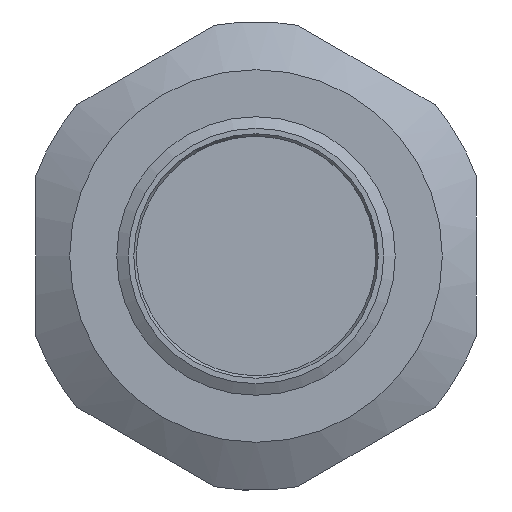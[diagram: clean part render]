
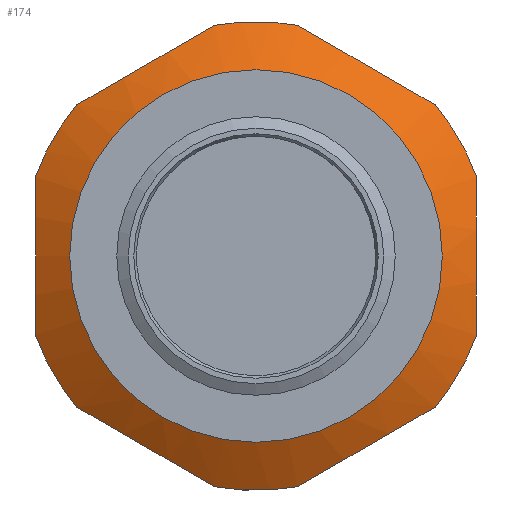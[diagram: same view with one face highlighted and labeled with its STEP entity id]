
A CAD part, front view. The second image highlights one B-rep face of the part: STEP entity #174.
In plain terms, the highlighted conical face has half-angle 60 degrees and reference radius 7.663 mm.
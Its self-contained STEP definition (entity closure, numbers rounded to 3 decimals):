
#46=(
BOUNDED_CURVE()
B_SPLINE_CURVE(2,(#1394,#1395,#1396),.UNSPECIFIED.,.F.,.F.)
B_SPLINE_CURVE_WITH_KNOTS((3,3),(0.,1.),.UNSPECIFIED.)
CURVE()
GEOMETRIC_REPRESENTATION_ITEM()
RATIONAL_B_SPLINE_CURVE((1.,1.063,1.))
REPRESENTATION_ITEM('')
);
#48=(
BOUNDED_CURVE()
B_SPLINE_CURVE(2,(#1410,#1411,#1412),.UNSPECIFIED.,.F.,.F.)
B_SPLINE_CURVE_WITH_KNOTS((3,3),(0.,1.),.UNSPECIFIED.)
CURVE()
GEOMETRIC_REPRESENTATION_ITEM()
RATIONAL_B_SPLINE_CURVE((1.,1.063,1.))
REPRESENTATION_ITEM('')
);
#54=(
BOUNDED_CURVE()
B_SPLINE_CURVE(2,(#1453,#1454,#1455),.UNSPECIFIED.,.F.,.F.)
B_SPLINE_CURVE_WITH_KNOTS((3,3),(0.,1.),.UNSPECIFIED.)
CURVE()
GEOMETRIC_REPRESENTATION_ITEM()
RATIONAL_B_SPLINE_CURVE((1.,1.032,1.032))
REPRESENTATION_ITEM('')
);
#55=(
BOUNDED_CURVE()
B_SPLINE_CURVE(2,(#1460,#1461,#1462),.UNSPECIFIED.,.F.,.F.)
B_SPLINE_CURVE_WITH_KNOTS((3,3),(0.,1.),.UNSPECIFIED.)
CURVE()
GEOMETRIC_REPRESENTATION_ITEM()
RATIONAL_B_SPLINE_CURVE((1.,1.063,1.))
REPRESENTATION_ITEM('')
);
#56=(
BOUNDED_CURVE()
B_SPLINE_CURVE(2,(#1465,#1466,#1467),.UNSPECIFIED.,.F.,.F.)
B_SPLINE_CURVE_WITH_KNOTS((3,3),(0.,1.),.UNSPECIFIED.)
CURVE()
GEOMETRIC_REPRESENTATION_ITEM()
RATIONAL_B_SPLINE_CURVE((1.,1.063,1.))
REPRESENTATION_ITEM('')
);
#57=(
BOUNDED_CURVE()
B_SPLINE_CURVE(2,(#1471,#1472,#1473),.UNSPECIFIED.,.F.,.F.)
B_SPLINE_CURVE_WITH_KNOTS((3,3),(0.,1.),.UNSPECIFIED.)
CURVE()
GEOMETRIC_REPRESENTATION_ITEM()
RATIONAL_B_SPLINE_CURVE((1.,1.063,1.))
REPRESENTATION_ITEM('')
);
#58=(
BOUNDED_CURVE()
B_SPLINE_CURVE(2,(#1477,#1478,#1479),.UNSPECIFIED.,.F.,.F.)
B_SPLINE_CURVE_WITH_KNOTS((3,3),(0.,1.),.UNSPECIFIED.)
CURVE()
GEOMETRIC_REPRESENTATION_ITEM()
RATIONAL_B_SPLINE_CURVE((1.032,1.032,1.))
REPRESENTATION_ITEM('')
);
#96=CONICAL_SURFACE('',#681,7.663,60.);
#174=ADVANCED_FACE('32-0-97',(#271,#272),#96,.T.);
#271=FACE_BOUND('',#323,.T.);
#272=FACE_BOUND('',#324,.T.);
#323=EDGE_LOOP('',(#425,#426,#427,#428,#429,#430,#431,#432,#433,#434,#435,
#436,#437));
#324=EDGE_LOOP('',(#438));
#425=ORIENTED_EDGE('',*,*,#581,.F.);
#426=ORIENTED_EDGE('',*,*,#582,.F.);
#427=ORIENTED_EDGE('',*,*,#583,.F.);
#428=ORIENTED_EDGE('',*,*,#557,.F.);
#429=ORIENTED_EDGE('',*,*,#561,.F.);
#430=ORIENTED_EDGE('',*,*,#564,.F.);
#431=ORIENTED_EDGE('',*,*,#567,.F.);
#432=ORIENTED_EDGE('',*,*,#584,.F.);
#433=ORIENTED_EDGE('',*,*,#585,.F.);
#434=ORIENTED_EDGE('',*,*,#586,.F.);
#435=ORIENTED_EDGE('',*,*,#587,.F.);
#436=ORIENTED_EDGE('',*,*,#588,.F.);
#437=ORIENTED_EDGE('',*,*,#589,.F.);
#438=ORIENTED_EDGE('',*,*,#580,.F.);
#499=VERTEX_POINT('',#1383);
#500=VERTEX_POINT('',#1385);
#502=VERTEX_POINT('',#1393);
#504=VERTEX_POINT('',#1401);
#506=VERTEX_POINT('',#1409);
#518=VERTEX_POINT('',#1451);
#519=VERTEX_POINT('',#1456);
#520=VERTEX_POINT('',#1457);
#521=VERTEX_POINT('',#1459);
#522=VERTEX_POINT('',#1464);
#523=VERTEX_POINT('',#1468);
#524=VERTEX_POINT('',#1470);
#525=VERTEX_POINT('',#1474);
#526=VERTEX_POINT('',#1476);
#557=EDGE_CURVE('',#499,#500,#610,.T.);
#561=EDGE_CURVE('',#502,#499,#46,.T.);
#564=EDGE_CURVE('',#504,#502,#612,.T.);
#567=EDGE_CURVE('',#506,#504,#48,.T.);
#580=EDGE_CURVE('',#518,#518,#620,.T.);
#581=EDGE_CURVE('',#519,#520,#54,.T.);
#582=EDGE_CURVE('',#521,#519,#621,.T.);
#583=EDGE_CURVE('',#500,#521,#55,.T.);
#584=EDGE_CURVE('',#522,#506,#622,.T.);
#585=EDGE_CURVE('',#523,#522,#56,.T.);
#586=EDGE_CURVE('',#524,#523,#623,.T.);
#587=EDGE_CURVE('',#525,#524,#57,.T.);
#588=EDGE_CURVE('',#526,#525,#624,.T.);
#589=EDGE_CURVE('',#520,#526,#58,.T.);
#610=CIRCLE('',#658,10.1);
#612=CIRCLE('',#662,10.1);
#620=CIRCLE('',#675,8.028);
#621=CIRCLE('',#677,10.1);
#622=CIRCLE('',#678,10.1);
#623=CIRCLE('',#679,10.1);
#624=CIRCLE('',#680,10.1);
#658=AXIS2_PLACEMENT_3D('',#1384,#766,#767);
#662=AXIS2_PLACEMENT_3D('',#1402,#777,#778);
#675=AXIS2_PLACEMENT_3D('',#1450,#804,#805);
#677=AXIS2_PLACEMENT_3D('',#1458,#808,#809);
#678=AXIS2_PLACEMENT_3D('',#1463,#810,#811);
#679=AXIS2_PLACEMENT_3D('',#1469,#812,#813);
#680=AXIS2_PLACEMENT_3D('',#1475,#814,#815);
#681=AXIS2_PLACEMENT_3D('',#1480,#816,#817);
#766=DIRECTION('',(0.,0.,-1.));
#767=DIRECTION('',(0.176,-0.984,0.));
#777=DIRECTION('',(0.,0.,-1.));
#778=DIRECTION('',(0.941,-0.34,0.));
#804=DIRECTION('',(0.,0.,1.));
#805=DIRECTION('',(-1.,0.,0.));
#808=DIRECTION('',(0.,0.,-1.));
#809=DIRECTION('',(-0.764,-0.645,0.));
#810=DIRECTION('',(0.,0.,-1.));
#811=DIRECTION('',(0.764,0.645,0.));
#812=DIRECTION('',(0.,0.,-1.));
#813=DIRECTION('',(-0.176,0.984,0.));
#814=DIRECTION('',(0.,0.,-1.));
#815=DIRECTION('',(-0.941,0.34,0.));
#816=DIRECTION('',(0.,0.,-1.));
#817=DIRECTION('',(-1.,0.,0.));
#1383=CARTESIAN_POINT('',(-143.159,2.355,-84.739));
#1384=CARTESIAN_POINT('',(-144.939,12.297,-84.739));
#1385=CARTESIAN_POINT('',(-146.72,2.355,-84.739));
#1393=CARTESIAN_POINT('',(-137.22,5.784,-84.739));
#1394=CARTESIAN_POINT('',(-137.22,5.784,-84.739));
#1395=CARTESIAN_POINT('',(-140.189,4.069,-84.067));
#1396=CARTESIAN_POINT('',(-143.159,2.355,-84.739));
#1401=CARTESIAN_POINT('',(-135.439,8.867,-84.739));
#1402=CARTESIAN_POINT('',(-144.939,12.297,-84.739));
#1409=CARTESIAN_POINT('',(-135.439,15.726,-84.739));
#1410=CARTESIAN_POINT('',(-135.439,15.726,-84.739));
#1411=CARTESIAN_POINT('',(-135.439,12.297,-84.067));
#1412=CARTESIAN_POINT('',(-135.439,8.867,-84.739));
#1450=CARTESIAN_POINT('',(-144.939,12.297,-83.543));
#1451=CARTESIAN_POINT('',(-152.967,12.297,-83.543));
#1453=CARTESIAN_POINT('',(-154.439,8.867,-84.739));
#1454=CARTESIAN_POINT('',(-154.439,10.634,-84.393));
#1455=CARTESIAN_POINT('',(-154.439,12.297,-84.393));
#1456=CARTESIAN_POINT('',(-154.439,8.867,-84.739));
#1457=CARTESIAN_POINT('',(-154.439,12.297,-84.393));
#1458=CARTESIAN_POINT('',(-144.939,12.297,-84.739));
#1459=CARTESIAN_POINT('',(-152.659,5.784,-84.739));
#1460=CARTESIAN_POINT('',(-146.72,2.355,-84.739));
#1461=CARTESIAN_POINT('',(-149.689,4.069,-84.067));
#1462=CARTESIAN_POINT('',(-152.659,5.784,-84.739));
#1463=CARTESIAN_POINT('',(-144.939,12.297,-84.739));
#1464=CARTESIAN_POINT('',(-137.22,18.809,-84.739));
#1465=CARTESIAN_POINT('',(-143.159,22.238,-84.739));
#1466=CARTESIAN_POINT('',(-140.189,20.524,-84.067));
#1467=CARTESIAN_POINT('',(-137.22,18.809,-84.739));
#1468=CARTESIAN_POINT('',(-143.159,22.238,-84.739));
#1469=CARTESIAN_POINT('',(-144.939,12.297,-84.739));
#1470=CARTESIAN_POINT('',(-146.72,22.238,-84.739));
#1471=CARTESIAN_POINT('',(-152.659,18.809,-84.739));
#1472=CARTESIAN_POINT('',(-149.689,20.524,-84.067));
#1473=CARTESIAN_POINT('',(-146.72,22.238,-84.739));
#1474=CARTESIAN_POINT('',(-152.659,18.809,-84.739));
#1475=CARTESIAN_POINT('',(-144.939,12.297,-84.739));
#1476=CARTESIAN_POINT('',(-154.439,15.726,-84.739));
#1477=CARTESIAN_POINT('',(-154.439,12.297,-84.393));
#1478=CARTESIAN_POINT('',(-154.439,13.959,-84.393));
#1479=CARTESIAN_POINT('',(-154.439,15.726,-84.739));
#1480=CARTESIAN_POINT('',(-144.939,12.297,-83.332));
